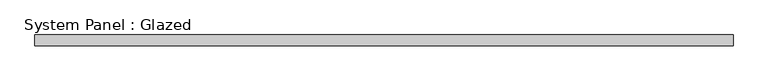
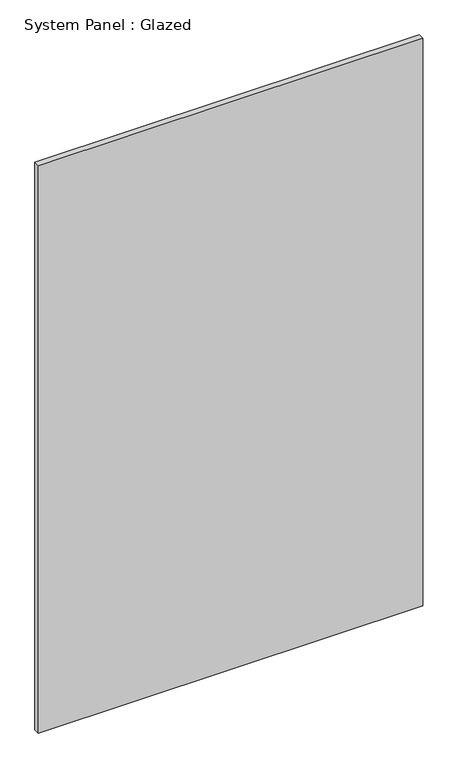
"""IFC4 building model written with IfcOpenShell, lengths in millimetres: plate geometry, System Panel : Glazed."""

from ifc_helpers import new_model, si_unit, origin, origin_with_axes, place, context, project, spatial, polyline, outline, extrude, source, transform, mapped, element, save


def system_panel_glazed_d557d0fe(model_context):
    return source(origin(), model_context, "Body", "SweptSolid", [
        extrude(outline(polyline([(824.7959145, 19.05), (-824.7959145, 19.05), (-824.7959145, 44.45), (824.7959145, 44.45), (824.7959145, 19.05)])), origin_with_axes(), (0.0, 0.0, 1.0), 2573.8666667),
    ])


if __name__ == "__main__":
    model = new_model("IFC4")
    model_context = context("Model", 3, world=origin())
    ifc_project = project(units=[si_unit("LENGTHUNIT", "METRE", prefix="MILLI")], contexts=[model_context])
    site = spatial("IfcSite", under=ifc_project)
    building = spatial("IfcBuilding", under=site)
    placement = place(None, origin())
    system_panel_glazed_shape = system_panel_glazed_d557d0fe(model_context)
    element("IfcPlate", 1, ObjectType="System Panel : Glazed", at=placement, inside=building, context=model_context, shape_type="MappedRepresentation", body=[
        mapped(system_panel_glazed_shape, transform((0.0, 0.0, 0.0), x_axis=(1.0, 0.0, 0.0), y_axis=(0.0, 1.0, 0.0), z_axis=(0.0, 0.0, 1.0))),
    ])
    save(model, "model.ifc")
